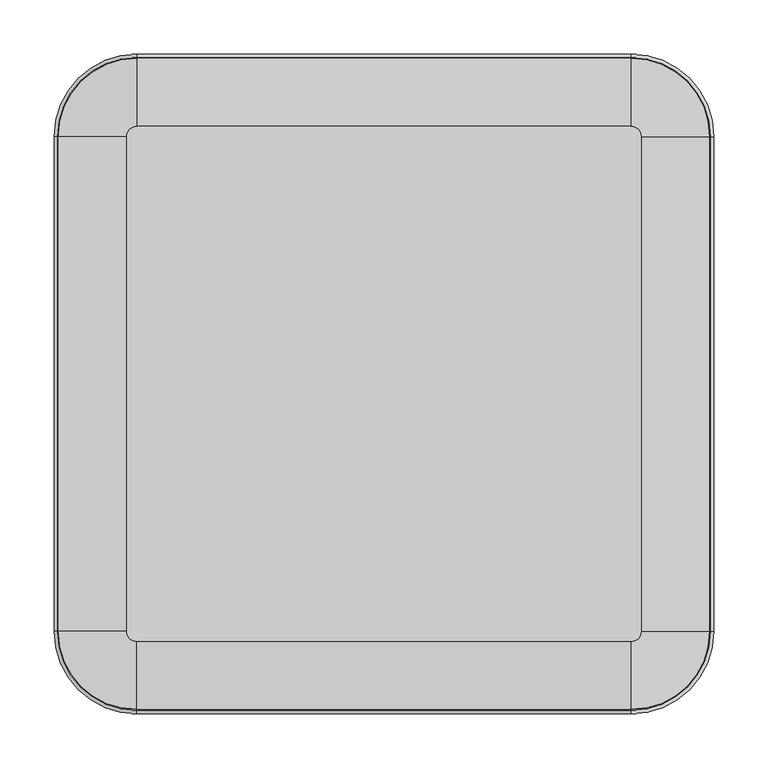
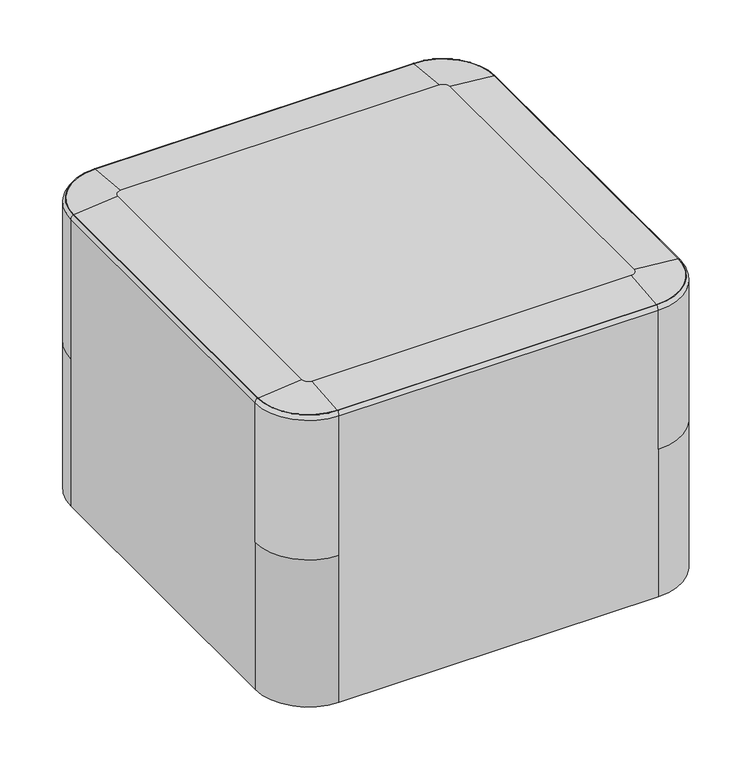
"""IFC4 building model written with IfcOpenShell, lengths in millimetres: furniture geometry, Indiana-Otty-Ottoman_Square : 840-2418SO."""

from ifc_helpers import new_model, si_unit, point, frame, origin, place, context, project, spatial, polyline, circle_curve, ellipse_curve, trimmed, source, transform, mapped, element, save
from ifc_brep_helpers import plane_surface, cylinder_surface, revolved_surface, advanced_brep


def furniture_ba106c97(model_context):
    return source(origin(), model_context, "Body", "AdvancedBrep", [
        advanced_brep(
        [(0.0, -250.825, 19.8875), (0.0, -273.325, 19.8875), (0.0, -228.325, 19.8875), (0.0, -272.8765082, 4.2458827), (0.0, -228.7734918, 4.2458827), (0.0, -268.3913665, -0.1125), (0.0, -233.2586335, -0.1125), (0.0, -261.0926178, -0.1125), (0.0, -240.5573822, -0.1125), (0.0, -257.1981417, 3.9179615), (0.0, -244.4518583, 3.9179615), (0.0, -250.825, 3.9179615)],
        [
            (0, 1),
            (1, 2, circle_curve(frame((0.0, -250.825, 19.8875), z_axis=(0.0, 0.0, 1.0), x_axis=(0.0, -1.0, 0.0)), 22.5)),
            (2, 0),
            (2, 1, circle_curve(frame((0.0, -250.825, 19.8875), z_axis=(0.0, 0.0, 1.0), x_axis=(0.0, -1.0, 0.0)), 22.5)),
            (1, 3),
            (3, 4, circle_curve(frame((0.0, -250.825, 4.2458827), z_axis=(0.0, 0.0, 1.0), x_axis=(0.0, -1.0, 0.0)), 22.0515082)),
            (4, 2),
            (4, 3, circle_curve(frame((0.0, -250.825, 4.2458827), z_axis=(0.0, 0.0, 1.0), x_axis=(0.0, -1.0, 0.0)), 22.0515082)),
            (3, 5, circle_curve(frame((0.0, -268.3913665, 4.3744851), z_axis=(1.0, 0.0, 0.0), x_axis=(0.0, 1.0, 0.0)), 4.4869851)),
            (5, 6, circle_curve(frame((0.0, -250.825, -0.1125), z_axis=(0.0, 0.0, 1.0), x_axis=(0.0, -1.0, 0.0)), 17.5663665)),
            (6, 4, circle_curve(frame((0.0, -233.2586335, 4.3744851), z_axis=(1.0, 0.0, 0.0), x_axis=(0.0, -1.0, 0.0)), 4.4869851)),
            (6, 5, circle_curve(frame((0.0, -250.825, -0.1125), z_axis=(0.0, 0.0, 1.0), x_axis=(0.0, -1.0, 0.0)), 17.5663665)),
            (5, 7),
            (7, 8, circle_curve(frame((0.0, -250.825, -0.1125), z_axis=(0.0, 0.0, 1.0), x_axis=(0.0, -1.0, 0.0)), 10.2676178)),
            (8, 6),
            (8, 7, circle_curve(frame((0.0, -250.825, -0.1125), z_axis=(0.0, 0.0, 1.0), x_axis=(0.0, -1.0, 0.0)), 10.2676178)),
            (7, 9, circle_curve(frame((0.0, -261.0926178, 3.7842702), z_axis=(1.0, 0.0, 0.0), x_axis=(0.0, 1.0, 0.0)), 3.8967702)),
            (9, 10, circle_curve(frame((0.0, -250.825, 3.9179615), z_axis=(0.0, 0.0, 1.0), x_axis=(0.0, -1.0, 0.0)), 6.3731417)),
            (10, 8, circle_curve(frame((0.0, -240.5573822, 3.7842702), z_axis=(1.0, 0.0, 0.0), x_axis=(0.0, -1.0, 0.0)), 3.8967702)),
            (10, 9, circle_curve(frame((0.0, -250.825, 3.9179615), z_axis=(0.0, 0.0, 1.0), x_axis=(0.0, -1.0, 0.0)), 6.3731417)),
            (9, 11),
            (11, 10),
        ],
        [
            plane_surface(frame((0.0, -250.825, 19.8875), z_axis=(0.0, 0.0, 1.0), x_axis=(0.0, -1.0, 0.0))),
            revolved_surface(polyline([(0.0, -272.8765082, 4.2458827), (0.0, -273.325, 19.8875)]), (0.0, -250.825, 31.0803862), (0.0, 0.0, 1.0)),
            revolved_surface(trimmed(ellipse_curve(frame((0.0, -268.3913665, 4.3744851), z_axis=(-1.0, 0.0, 0.0), x_axis=(0.0, 1.0, 0.0)), 4.4869851, 4.4869851), [point((0.0, -268.3913665, -0.1125))], [point((0.0, -272.8765082, 4.2458827))], True, "CARTESIAN"), (0.0, -250.825, 31.0803862), (0.0, 0.0, 1.0)),
            plane_surface(frame((0.0, -250.825, -0.1125), z_axis=(0.0, 0.0, -1.0), x_axis=(0.0, -1.0, 0.0))),
            revolved_surface(trimmed(ellipse_curve(frame((0.0, -261.0926178, 3.7842702), z_axis=(-1.0, 0.0, 0.0), x_axis=(0.0, 1.0, 0.0)), 3.8967702, 3.8967702), [point((0.0, -257.1981417, 3.9179615))], [point((0.0, -261.0926178, -0.1125))], True, "CARTESIAN"), (0.0, -250.825, 31.0803862), (0.0, 0.0, 1.0)),
            plane_surface(frame((0.0, -250.825, 3.9179615), z_axis=(0.0, 0.0, -1.0), x_axis=(0.0, -1.0, 0.0))),
        ],
        [
            (0, [[1, 2, 3]]),
            (0, [[-3, 4, -1]]),
            (1, [[-2, 5, 6, 7]]),
            (1, [[-4, -7, 8, -5]]),
            (2, [[-6, 9, 10, 11]]),
            (2, [[-8, -11, 12, -9]]),
            (3, [[-10, 13, 14, 15]]),
            (3, [[-12, -15, 16, -13]]),
            (4, [[-14, 17, 18, 19]]),
            (4, [[-16, -19, 20, -17]]),
            (5, [[-18, 21, 22]]),
            (5, [[-20, -22, -21]]),
        ],
    ),
        advanced_brep(
        [(0.0, 250.825, 19.8875), (0.0, 228.325, 19.8875), (0.0, 273.325, 19.8875), (0.0, 228.7734918, 4.2458827), (0.0, 272.8765082, 4.2458827), (0.0, 233.2586335, -0.1125), (0.0, 268.3913665, -0.1125), (0.0, 240.5573822, -0.1125), (0.0, 261.0926178, -0.1125), (0.0, 244.4518583, 3.9179615), (0.0, 257.1981417, 3.9179615), (0.0, 250.825, 3.9179615)],
        [
            (0, 1),
            (1, 2, circle_curve(frame((0.0, 250.825, 19.8875), z_axis=(0.0, 0.0, 1.0), x_axis=(0.0, -1.0, 0.0)), 22.5)),
            (2, 0),
            (2, 1, circle_curve(frame((0.0, 250.825, 19.8875), z_axis=(0.0, 0.0, 1.0), x_axis=(0.0, -1.0, 0.0)), 22.5)),
            (1, 3),
            (3, 4, circle_curve(frame((0.0, 250.825, 4.2458827), z_axis=(0.0, 0.0, 1.0), x_axis=(0.0, -1.0, 0.0)), 22.0515082)),
            (4, 2),
            (4, 3, circle_curve(frame((0.0, 250.825, 4.2458827), z_axis=(0.0, 0.0, 1.0), x_axis=(0.0, -1.0, 0.0)), 22.0515082)),
            (3, 5, circle_curve(frame((0.0, 233.2586335, 4.3744851), z_axis=(1.0, 0.0, 0.0), x_axis=(0.0, 1.0, 0.0)), 4.4869851)),
            (5, 6, circle_curve(frame((0.0, 250.825, -0.1125), z_axis=(0.0, 0.0, 1.0), x_axis=(0.0, -1.0, 0.0)), 17.5663665)),
            (6, 4, circle_curve(frame((0.0, 268.3913665, 4.3744851), z_axis=(1.0, 0.0, 0.0), x_axis=(0.0, -1.0, 0.0)), 4.4869851)),
            (6, 5, circle_curve(frame((0.0, 250.825, -0.1125), z_axis=(0.0, 0.0, 1.0), x_axis=(0.0, -1.0, 0.0)), 17.5663665)),
            (5, 7),
            (7, 8, circle_curve(frame((0.0, 250.825, -0.1125), z_axis=(0.0, 0.0, 1.0), x_axis=(0.0, -1.0, 0.0)), 10.2676178)),
            (8, 6),
            (8, 7, circle_curve(frame((0.0, 250.825, -0.1125), z_axis=(0.0, 0.0, 1.0), x_axis=(0.0, -1.0, 0.0)), 10.2676178)),
            (7, 9, circle_curve(frame((0.0, 240.5573822, 3.7842702), z_axis=(1.0, 0.0, 0.0), x_axis=(0.0, 1.0, 0.0)), 3.8967702)),
            (9, 10, circle_curve(frame((0.0, 250.825, 3.9179615), z_axis=(0.0, 0.0, 1.0), x_axis=(0.0, -1.0, 0.0)), 6.3731417)),
            (10, 8, circle_curve(frame((0.0, 261.0926178, 3.7842702), z_axis=(1.0, 0.0, 0.0), x_axis=(0.0, -1.0, 0.0)), 3.8967702)),
            (10, 9, circle_curve(frame((0.0, 250.825, 3.9179615), z_axis=(0.0, 0.0, 1.0), x_axis=(0.0, -1.0, 0.0)), 6.3731417)),
            (9, 11),
            (11, 10),
        ],
        [
            plane_surface(frame((0.0, 250.825, 19.8875), z_axis=(0.0, 0.0, 1.0), x_axis=(0.0, -1.0, 0.0))),
            revolved_surface(polyline([(0.0, 228.7734918, 4.2458827), (0.0, 228.325, 19.8875)]), (0.0, 250.825, 31.0803862), (0.0, 0.0, 1.0)),
            revolved_surface(trimmed(ellipse_curve(frame((0.0, 233.2586335, 4.3744851), z_axis=(-1.0, 0.0, 0.0), x_axis=(0.0, 1.0, 0.0)), 4.4869851, 4.4869851), [point((0.0, 233.2586335, -0.1125))], [point((0.0, 228.7734918, 4.2458827))], True, "CARTESIAN"), (0.0, 250.825, 31.0803862), (0.0, 0.0, 1.0)),
            plane_surface(frame((0.0, 250.825, -0.1125), z_axis=(0.0, 0.0, -1.0), x_axis=(0.0, -1.0, 0.0))),
            revolved_surface(trimmed(ellipse_curve(frame((0.0, 240.5573822, 3.7842702), z_axis=(-1.0, 0.0, 0.0), x_axis=(0.0, 1.0, 0.0)), 3.8967702, 3.8967702), [point((0.0, 244.4518583, 3.9179615))], [point((0.0, 240.5573822, -0.1125))], True, "CARTESIAN"), (0.0, 250.825, 31.0803862), (0.0, 0.0, 1.0)),
            plane_surface(frame((0.0, 250.825, 3.9179615), z_axis=(0.0, 0.0, -1.0), x_axis=(0.0, -1.0, 0.0))),
        ],
        [
            (0, [[1, 2, 3]]),
            (0, [[-3, 4, -1]]),
            (1, [[-2, 5, 6, 7]]),
            (1, [[-4, -7, 8, -5]]),
            (2, [[-6, 9, 10, 11]]),
            (2, [[-8, -11, 12, -9]]),
            (3, [[-10, 13, 14, 15]]),
            (3, [[-12, -15, 16, -13]]),
            (4, [[-14, 17, 18, 19]]),
            (4, [[-16, -19, 20, -17]]),
            (5, [[-18, 21, 22]]),
            (5, [[-20, -22, -21]]),
        ],
    ),
        advanced_brep(
        [(250.825, -250.825, 19.8875), (250.825, -273.325, 19.8875), (250.825, -228.325, 19.8875), (250.825, -272.8765082, 4.2458827), (250.825, -228.7734918, 4.2458827), (250.825, -268.3913665, -0.1125), (250.825, -233.2586335, -0.1125), (250.825, -261.0926178, -0.1125), (250.825, -240.5573822, -0.1125), (250.825, -257.1981417, 3.9179615), (250.825, -244.4518583, 3.9179615), (250.825, -250.825, 3.9179615)],
        [
            (0, 1),
            (1, 2, circle_curve(frame((250.825, -250.825, 19.8875), z_axis=(0.0, 0.0, 1.0), x_axis=(0.0, -1.0, 0.0)), 22.5)),
            (2, 0),
            (2, 1, circle_curve(frame((250.825, -250.825, 19.8875), z_axis=(0.0, 0.0, 1.0), x_axis=(0.0, -1.0, 0.0)), 22.5)),
            (1, 3),
            (3, 4, circle_curve(frame((250.825, -250.825, 4.2458827), z_axis=(0.0, 0.0, 1.0), x_axis=(0.0, -1.0, 0.0)), 22.0515082)),
            (4, 2),
            (4, 3, circle_curve(frame((250.825, -250.825, 4.2458827), z_axis=(0.0, 0.0, 1.0), x_axis=(0.0, -1.0, 0.0)), 22.0515082)),
            (3, 5, circle_curve(frame((250.825, -268.3913665, 4.3744851), z_axis=(1.0, 0.0, 0.0), x_axis=(0.0, 1.0, 0.0)), 4.4869851)),
            (5, 6, circle_curve(frame((250.825, -250.825, -0.1125), z_axis=(0.0, 0.0, 1.0), x_axis=(0.0, -1.0, 0.0)), 17.5663665)),
            (6, 4, circle_curve(frame((250.825, -233.2586335, 4.3744851), z_axis=(1.0, 0.0, 0.0), x_axis=(0.0, -1.0, 0.0)), 4.4869851)),
            (6, 5, circle_curve(frame((250.825, -250.825, -0.1125), z_axis=(0.0, 0.0, 1.0), x_axis=(0.0, -1.0, 0.0)), 17.5663665)),
            (5, 7),
            (7, 8, circle_curve(frame((250.825, -250.825, -0.1125), z_axis=(0.0, 0.0, 1.0), x_axis=(0.0, -1.0, 0.0)), 10.2676178)),
            (8, 6),
            (8, 7, circle_curve(frame((250.825, -250.825, -0.1125), z_axis=(0.0, 0.0, 1.0), x_axis=(0.0, -1.0, 0.0)), 10.2676178)),
            (7, 9, circle_curve(frame((250.825, -261.0926178, 3.7842702), z_axis=(1.0, 0.0, 0.0), x_axis=(0.0, 1.0, 0.0)), 3.8967702)),
            (9, 10, circle_curve(frame((250.825, -250.825, 3.9179615), z_axis=(0.0, 0.0, 1.0), x_axis=(0.0, -1.0, 0.0)), 6.3731417)),
            (10, 8, circle_curve(frame((250.825, -240.5573822, 3.7842702), z_axis=(1.0, 0.0, 0.0), x_axis=(0.0, -1.0, 0.0)), 3.8967702)),
            (10, 9, circle_curve(frame((250.825, -250.825, 3.9179615), z_axis=(0.0, 0.0, 1.0), x_axis=(0.0, -1.0, 0.0)), 6.3731417)),
            (9, 11),
            (11, 10),
        ],
        [
            plane_surface(frame((250.825, -250.825, 19.8875), z_axis=(0.0, 0.0, 1.0), x_axis=(0.0, -1.0, 0.0))),
            revolved_surface(polyline([(250.825, -272.8765082, 4.2458827), (250.825, -273.325, 19.8875)]), (250.825, -250.825, 31.0803862), (0.0, 0.0, 1.0)),
            revolved_surface(trimmed(ellipse_curve(frame((250.825, -268.3913665, 4.3744851), z_axis=(-1.0, 0.0, 0.0), x_axis=(0.0, 1.0, 0.0)), 4.4869851, 4.4869851), [point((250.825, -268.3913665, -0.1125))], [point((250.825, -272.8765082, 4.2458827))], True, "CARTESIAN"), (250.825, -250.825, 31.0803862), (0.0, 0.0, 1.0)),
            plane_surface(frame((250.825, -250.825, -0.1125), z_axis=(0.0, 0.0, -1.0), x_axis=(0.0, -1.0, 0.0))),
            revolved_surface(trimmed(ellipse_curve(frame((250.825, -261.0926178, 3.7842702), z_axis=(-1.0, 0.0, 0.0), x_axis=(0.0, 1.0, 0.0)), 3.8967702, 3.8967702), [point((250.825, -257.1981417, 3.9179615))], [point((250.825, -261.0926178, -0.1125))], True, "CARTESIAN"), (250.825, -250.825, 31.0803862), (0.0, 0.0, 1.0)),
            plane_surface(frame((250.825, -250.825, 3.9179615), z_axis=(0.0, 0.0, -1.0), x_axis=(0.0, -1.0, 0.0))),
        ],
        [
            (0, [[1, 2, 3]]),
            (0, [[-3, 4, -1]]),
            (1, [[-2, 5, 6, 7]]),
            (1, [[-4, -7, 8, -5]]),
            (2, [[-6, 9, 10, 11]]),
            (2, [[-8, -11, 12, -9]]),
            (3, [[-10, 13, 14, 15]]),
            (3, [[-12, -15, 16, -13]]),
            (4, [[-14, 17, 18, 19]]),
            (4, [[-16, -19, 20, -17]]),
            (5, [[-18, 21, 22]]),
            (5, [[-20, -22, -21]]),
        ],
    ),
        advanced_brep(
        [(250.825, 250.825, 19.8875), (250.825, 228.325, 19.8875), (250.825, 273.325, 19.8875), (250.825, 228.7734918, 4.2458827), (250.825, 272.8765082, 4.2458827), (250.825, 233.2586335, -0.1125), (250.825, 268.3913665, -0.1125), (250.825, 240.5573822, -0.1125), (250.825, 261.0926178, -0.1125), (250.825, 244.4518583, 3.9179615), (250.825, 257.1981417, 3.9179615), (250.825, 250.825, 3.9179615)],
        [
            (0, 1),
            (1, 2, circle_curve(frame((250.825, 250.825, 19.8875), z_axis=(0.0, 0.0, 1.0), x_axis=(0.0, -1.0, 0.0)), 22.5)),
            (2, 0),
            (2, 1, circle_curve(frame((250.825, 250.825, 19.8875), z_axis=(0.0, 0.0, 1.0), x_axis=(0.0, -1.0, 0.0)), 22.5)),
            (1, 3),
            (3, 4, circle_curve(frame((250.825, 250.825, 4.2458827), z_axis=(0.0, 0.0, 1.0), x_axis=(0.0, -1.0, 0.0)), 22.0515082)),
            (4, 2),
            (4, 3, circle_curve(frame((250.825, 250.825, 4.2458827), z_axis=(0.0, 0.0, 1.0), x_axis=(0.0, -1.0, 0.0)), 22.0515082)),
            (3, 5, circle_curve(frame((250.825, 233.2586335, 4.3744851), z_axis=(1.0, 0.0, 0.0), x_axis=(0.0, 1.0, 0.0)), 4.4869851)),
            (5, 6, circle_curve(frame((250.825, 250.825, -0.1125), z_axis=(0.0, 0.0, 1.0), x_axis=(0.0, -1.0, 0.0)), 17.5663665)),
            (6, 4, circle_curve(frame((250.825, 268.3913665, 4.3744851), z_axis=(1.0, 0.0, 0.0), x_axis=(0.0, -1.0, 0.0)), 4.4869851)),
            (6, 5, circle_curve(frame((250.825, 250.825, -0.1125), z_axis=(0.0, 0.0, 1.0), x_axis=(0.0, -1.0, 0.0)), 17.5663665)),
            (5, 7),
            (7, 8, circle_curve(frame((250.825, 250.825, -0.1125), z_axis=(0.0, 0.0, 1.0), x_axis=(0.0, -1.0, 0.0)), 10.2676178)),
            (8, 6),
            (8, 7, circle_curve(frame((250.825, 250.825, -0.1125), z_axis=(0.0, 0.0, 1.0), x_axis=(0.0, -1.0, 0.0)), 10.2676178)),
            (7, 9, circle_curve(frame((250.825, 240.5573822, 3.7842702), z_axis=(1.0, 0.0, 0.0), x_axis=(0.0, 1.0, 0.0)), 3.8967702)),
            (9, 10, circle_curve(frame((250.825, 250.825, 3.9179615), z_axis=(0.0, 0.0, 1.0), x_axis=(0.0, -1.0, 0.0)), 6.3731417)),
            (10, 8, circle_curve(frame((250.825, 261.0926178, 3.7842702), z_axis=(1.0, 0.0, 0.0), x_axis=(0.0, -1.0, 0.0)), 3.8967702)),
            (10, 9, circle_curve(frame((250.825, 250.825, 3.9179615), z_axis=(0.0, 0.0, 1.0), x_axis=(0.0, -1.0, 0.0)), 6.3731417)),
            (9, 11),
            (11, 10),
        ],
        [
            plane_surface(frame((250.825, 250.825, 19.8875), z_axis=(0.0, 0.0, 1.0), x_axis=(0.0, -1.0, 0.0))),
            revolved_surface(polyline([(250.825, 228.7734918, 4.2458827), (250.825, 228.325, 19.8875)]), (250.825, 250.825, 31.0803862), (0.0, 0.0, 1.0)),
            revolved_surface(trimmed(ellipse_curve(frame((250.825, 233.2586335, 4.3744851), z_axis=(-1.0, 0.0, 0.0), x_axis=(0.0, 1.0, 0.0)), 4.4869851, 4.4869851), [point((250.825, 233.2586335, -0.1125))], [point((250.825, 228.7734918, 4.2458827))], True, "CARTESIAN"), (250.825, 250.825, 31.0803862), (0.0, 0.0, 1.0)),
            plane_surface(frame((250.825, 250.825, -0.1125), z_axis=(0.0, 0.0, -1.0), x_axis=(0.0, -1.0, 0.0))),
            revolved_surface(trimmed(ellipse_curve(frame((250.825, 240.5573822, 3.7842702), z_axis=(-1.0, 0.0, 0.0), x_axis=(0.0, 1.0, 0.0)), 3.8967702, 3.8967702), [point((250.825, 244.4518583, 3.9179615))], [point((250.825, 240.5573822, -0.1125))], True, "CARTESIAN"), (250.825, 250.825, 31.0803862), (0.0, 0.0, 1.0)),
            plane_surface(frame((250.825, 250.825, 3.9179615), z_axis=(0.0, 0.0, -1.0), x_axis=(0.0, -1.0, 0.0))),
        ],
        [
            (0, [[1, 2, 3]]),
            (0, [[-3, 4, -1]]),
            (1, [[-2, 5, 6, 7]]),
            (1, [[-4, -7, 8, -5]]),
            (2, [[-6, 9, 10, 11]]),
            (2, [[-8, -11, 12, -9]]),
            (3, [[-10, 13, 14, 15]]),
            (3, [[-12, -15, 16, -13]]),
            (4, [[-14, 17, 18, 19]]),
            (4, [[-16, -19, 20, -17]]),
            (5, [[-18, 21, 22]]),
            (5, [[-20, -22, -21]]),
        ],
    ),
        advanced_brep(
        [(-250.825, -250.825, 19.8875), (-250.825, -273.325, 19.8875), (-250.825, -228.325, 19.8875), (-250.825, -272.8765082, 4.2458827), (-250.825, -228.7734918, 4.2458827), (-250.825, -268.3913665, -0.1125), (-250.825, -233.2586335, -0.1125), (-250.825, -261.0926178, -0.1125), (-250.825, -240.5573822, -0.1125), (-250.825, -257.1981417, 3.9179615), (-250.825, -244.4518583, 3.9179615), (-250.825, -250.825, 3.9179615)],
        [
            (0, 1),
            (1, 2, circle_curve(frame((-250.825, -250.825, 19.8875), z_axis=(0.0, 0.0, 1.0), x_axis=(0.0, -1.0, 0.0)), 22.5)),
            (2, 0),
            (2, 1, circle_curve(frame((-250.825, -250.825, 19.8875), z_axis=(0.0, 0.0, 1.0), x_axis=(0.0, -1.0, 0.0)), 22.5)),
            (1, 3),
            (3, 4, circle_curve(frame((-250.825, -250.825, 4.2458827), z_axis=(0.0, 0.0, 1.0), x_axis=(0.0, -1.0, 0.0)), 22.0515082)),
            (4, 2),
            (4, 3, circle_curve(frame((-250.825, -250.825, 4.2458827), z_axis=(0.0, 0.0, 1.0), x_axis=(0.0, -1.0, 0.0)), 22.0515082)),
            (3, 5, circle_curve(frame((-250.825, -268.3913665, 4.3744851), z_axis=(1.0, 0.0, 0.0), x_axis=(0.0, 1.0, 0.0)), 4.4869851)),
            (5, 6, circle_curve(frame((-250.825, -250.825, -0.1125), z_axis=(0.0, 0.0, 1.0), x_axis=(0.0, -1.0, 0.0)), 17.5663665)),
            (6, 4, circle_curve(frame((-250.825, -233.2586335, 4.3744851), z_axis=(1.0, 0.0, 0.0), x_axis=(0.0, -1.0, 0.0)), 4.4869851)),
            (6, 5, circle_curve(frame((-250.825, -250.825, -0.1125), z_axis=(0.0, 0.0, 1.0), x_axis=(0.0, -1.0, 0.0)), 17.5663665)),
            (5, 7),
            (7, 8, circle_curve(frame((-250.825, -250.825, -0.1125), z_axis=(0.0, 0.0, 1.0), x_axis=(0.0, -1.0, 0.0)), 10.2676178)),
            (8, 6),
            (8, 7, circle_curve(frame((-250.825, -250.825, -0.1125), z_axis=(0.0, 0.0, 1.0), x_axis=(0.0, -1.0, 0.0)), 10.2676178)),
            (7, 9, circle_curve(frame((-250.825, -261.0926178, 3.7842702), z_axis=(1.0, 0.0, 0.0), x_axis=(0.0, 1.0, 0.0)), 3.8967702)),
            (9, 10, circle_curve(frame((-250.825, -250.825, 3.9179615), z_axis=(0.0, 0.0, 1.0), x_axis=(0.0, -1.0, 0.0)), 6.3731417)),
            (10, 8, circle_curve(frame((-250.825, -240.5573822, 3.7842702), z_axis=(1.0, 0.0, 0.0), x_axis=(0.0, -1.0, 0.0)), 3.8967702)),
            (10, 9, circle_curve(frame((-250.825, -250.825, 3.9179615), z_axis=(0.0, 0.0, 1.0), x_axis=(0.0, -1.0, 0.0)), 6.3731417)),
            (9, 11),
            (11, 10),
        ],
        [
            plane_surface(frame((-250.825, -250.825, 19.8875), z_axis=(0.0, 0.0, 1.0), x_axis=(0.0, -1.0, 0.0))),
            revolved_surface(polyline([(-250.825, -272.8765082, 4.2458827), (-250.825, -273.325, 19.8875)]), (-250.825, -250.825, 31.0803862), (0.0, 0.0, 1.0)),
            revolved_surface(trimmed(ellipse_curve(frame((-250.825, -268.3913665, 4.3744851), z_axis=(-1.0, 0.0, 0.0), x_axis=(0.0, 1.0, 0.0)), 4.4869851, 4.4869851), [point((-250.825, -268.3913665, -0.1125))], [point((-250.825, -272.8765082, 4.2458827))], True, "CARTESIAN"), (-250.825, -250.825, 31.0803862), (0.0, 0.0, 1.0)),
            plane_surface(frame((-250.825, -250.825, -0.1125), z_axis=(0.0, 0.0, -1.0), x_axis=(0.0, -1.0, 0.0))),
            revolved_surface(trimmed(ellipse_curve(frame((-250.825, -261.0926178, 3.7842702), z_axis=(-1.0, 0.0, 0.0), x_axis=(0.0, 1.0, 0.0)), 3.8967702, 3.8967702), [point((-250.825, -257.1981417, 3.9179615))], [point((-250.825, -261.0926178, -0.1125))], True, "CARTESIAN"), (-250.825, -250.825, 31.0803862), (0.0, 0.0, 1.0)),
            plane_surface(frame((-250.825, -250.825, 3.9179615), z_axis=(0.0, 0.0, -1.0), x_axis=(0.0, -1.0, 0.0))),
        ],
        [
            (0, [[1, 2, 3]]),
            (0, [[-3, 4, -1]]),
            (1, [[-2, 5, 6, 7]]),
            (1, [[-4, -7, 8, -5]]),
            (2, [[-6, 9, 10, 11]]),
            (2, [[-8, -11, 12, -9]]),
            (3, [[-10, 13, 14, 15]]),
            (3, [[-12, -15, 16, -13]]),
            (4, [[-14, 17, 18, 19]]),
            (4, [[-16, -19, 20, -17]]),
            (5, [[-18, 21, 22]]),
            (5, [[-20, -22, -21]]),
        ],
    ),
        advanced_brep(
        [(-250.825, 250.825, 19.8875), (-250.825, 228.325, 19.8875), (-250.825, 273.325, 19.8875), (-250.825, 228.7734918, 4.2458827), (-250.825, 272.8765082, 4.2458827), (-250.825, 233.2586335, -0.1125), (-250.825, 268.3913665, -0.1125), (-250.825, 240.5573822, -0.1125), (-250.825, 261.0926178, -0.1125), (-250.825, 244.4518583, 3.9179615), (-250.825, 257.1981417, 3.9179615), (-250.825, 250.825, 3.9179615)],
        [
            (0, 1),
            (1, 2, circle_curve(frame((-250.825, 250.825, 19.8875), z_axis=(0.0, 0.0, 1.0), x_axis=(0.0, -1.0, 0.0)), 22.5)),
            (2, 0),
            (2, 1, circle_curve(frame((-250.825, 250.825, 19.8875), z_axis=(0.0, 0.0, 1.0), x_axis=(0.0, -1.0, 0.0)), 22.5)),
            (1, 3),
            (3, 4, circle_curve(frame((-250.825, 250.825, 4.2458827), z_axis=(0.0, 0.0, 1.0), x_axis=(0.0, -1.0, 0.0)), 22.0515082)),
            (4, 2),
            (4, 3, circle_curve(frame((-250.825, 250.825, 4.2458827), z_axis=(0.0, 0.0, 1.0), x_axis=(0.0, -1.0, 0.0)), 22.0515082)),
            (3, 5, circle_curve(frame((-250.825, 233.2586335, 4.3744851), z_axis=(1.0, 0.0, 0.0), x_axis=(0.0, 1.0, 0.0)), 4.4869851)),
            (5, 6, circle_curve(frame((-250.825, 250.825, -0.1125), z_axis=(0.0, 0.0, 1.0), x_axis=(0.0, -1.0, 0.0)), 17.5663665)),
            (6, 4, circle_curve(frame((-250.825, 268.3913665, 4.3744851), z_axis=(1.0, 0.0, 0.0), x_axis=(0.0, -1.0, 0.0)), 4.4869851)),
            (6, 5, circle_curve(frame((-250.825, 250.825, -0.1125), z_axis=(0.0, 0.0, 1.0), x_axis=(0.0, -1.0, 0.0)), 17.5663665)),
            (5, 7),
            (7, 8, circle_curve(frame((-250.825, 250.825, -0.1125), z_axis=(0.0, 0.0, 1.0), x_axis=(0.0, -1.0, 0.0)), 10.2676178)),
            (8, 6),
            (8, 7, circle_curve(frame((-250.825, 250.825, -0.1125), z_axis=(0.0, 0.0, 1.0), x_axis=(0.0, -1.0, 0.0)), 10.2676178)),
            (7, 9, circle_curve(frame((-250.825, 240.5573822, 3.7842702), z_axis=(1.0, 0.0, 0.0), x_axis=(0.0, 1.0, 0.0)), 3.8967702)),
            (9, 10, circle_curve(frame((-250.825, 250.825, 3.9179615), z_axis=(0.0, 0.0, 1.0), x_axis=(0.0, -1.0, 0.0)), 6.3731417)),
            (10, 8, circle_curve(frame((-250.825, 261.0926178, 3.7842702), z_axis=(1.0, 0.0, 0.0), x_axis=(0.0, -1.0, 0.0)), 3.8967702)),
            (10, 9, circle_curve(frame((-250.825, 250.825, 3.9179615), z_axis=(0.0, 0.0, 1.0), x_axis=(0.0, -1.0, 0.0)), 6.3731417)),
            (9, 11),
            (11, 10),
        ],
        [
            plane_surface(frame((-250.825, 250.825, 19.8875), z_axis=(0.0, 0.0, 1.0), x_axis=(0.0, -1.0, 0.0))),
            revolved_surface(polyline([(-250.825, 228.7734918, 4.2458827), (-250.825, 228.325, 19.8875)]), (-250.825, 250.825, 31.0803862), (0.0, 0.0, 1.0)),
            revolved_surface(trimmed(ellipse_curve(frame((-250.825, 233.2586335, 4.3744851), z_axis=(-1.0, 0.0, 0.0), x_axis=(0.0, 1.0, 0.0)), 4.4869851, 4.4869851), [point((-250.825, 233.2586335, -0.1125))], [point((-250.825, 228.7734918, 4.2458827))], True, "CARTESIAN"), (-250.825, 250.825, 31.0803862), (0.0, 0.0, 1.0)),
            plane_surface(frame((-250.825, 250.825, -0.1125), z_axis=(0.0, 0.0, -1.0), x_axis=(0.0, -1.0, 0.0))),
            revolved_surface(trimmed(ellipse_curve(frame((-250.825, 240.5573822, 3.7842702), z_axis=(-1.0, 0.0, 0.0), x_axis=(0.0, 1.0, 0.0)), 3.8967702, 3.8967702), [point((-250.825, 244.4518583, 3.9179615))], [point((-250.825, 240.5573822, -0.1125))], True, "CARTESIAN"), (-250.825, 250.825, 31.0803862), (0.0, 0.0, 1.0)),
            plane_surface(frame((-250.825, 250.825, 3.9179615), z_axis=(0.0, 0.0, -1.0), x_axis=(0.0, -1.0, 0.0))),
        ],
        [
            (0, [[1, 2, 3]]),
            (0, [[-3, 4, -1]]),
            (1, [[-2, 5, 6, 7]]),
            (1, [[-4, -7, 8, -5]]),
            (2, [[-6, 9, 10, 11]]),
            (2, [[-8, -11, 12, -9]]),
            (3, [[-10, 13, 14, 15]]),
            (3, [[-12, -15, 16, -13]]),
            (4, [[-14, 17, 18, 19]]),
            (4, [[-16, -19, 20, -17]]),
            (5, [[-18, 21, 22]]),
            (5, [[-20, -22, -21]]),
        ],
    ),
        advanced_brep(
        [(300.8, 228.6, 451.1999966), (228.6, 300.8, 451.1999966), (228.6, 238.125, 457.2), (238.125, 228.6, 457.2), (301.5317905, 228.6, 451.4073863), (228.6, 301.5317905, 451.4073863), (304.8, 228.6, 445.2), (228.6, 304.8, 445.2), (304.8, 228.6, 234.35), (228.6, 304.8, 234.35), (238.125, -228.6, 457.2), (300.8, -228.6, 451.1999966), (301.5317905, -228.6, 451.4073863), (304.8, -228.6, 445.2), (304.8, -228.6, 234.35), (304.8, -228.6, 11.5), (304.8, 228.6, 11.5), (228.6, -238.125, 457.2), (228.6, -300.8, 451.1999966), (228.6, -301.5317905, 451.4073863), (228.6, -304.8, 445.2), (228.6, -304.8, 234.35), (-228.6, -238.125, 457.2), (-228.6, -300.8, 451.1999966), (-228.6, -301.5317905, 451.4073863), (-228.6, -304.8, 445.2), (-228.6, -304.8, 234.35), (-228.6, -304.8, 11.5), (228.6, -304.8, 11.5), (-238.125, -228.6, 457.2), (-300.8, -228.6, 451.1999966), (-301.5317905, -228.6, 451.4073863), (-304.8, -228.6, 445.2), (-304.8, -228.6, 234.35), (-238.125, 228.6, 457.2), (-300.8, 228.6, 451.1999966), (-301.5317905, 228.6, 451.4073863), (-304.8, 228.6, 445.2), (-304.8, 228.6, 234.35), (-304.8, 228.6, 11.5), (-304.8, -228.6, 11.5), (-228.6, 238.125, 457.2), (-228.6, 300.8, 451.1999966), (-228.6, 301.5317905, 451.4073863), (-228.6, 304.8, 445.2), (-228.6, 304.8, 234.35), (228.6, 304.8, 11.5), (-228.6, 304.8, 11.5), (-273.84375, -250.825, 11.5), (-227.80625, -250.825, 11.5), (-273.84375, 250.825, 11.5), (-227.80625, 250.825, 11.5), (227.80625, 250.825, 11.5), (273.84375, 250.825, 11.5), (227.80625, -250.825, 11.5), (273.84375, -250.825, 11.5), (-23.01875, 250.825, 11.5), (23.01875, 250.825, 11.5), (-23.01875, -250.825, 11.5), (23.01875, -250.825, 11.5), (-227.80625, -250.825, 19.834375), (-273.84375, -250.825, 19.834375), (-227.80625, 250.825, 19.834375), (-273.84375, 250.825, 19.834375), (227.80625, 250.825, 19.834375), (273.84375, 250.825, 19.834375), (227.80625, -250.825, 19.834375), (273.84375, -250.825, 19.834375), (-23.01875, 250.825, 19.834375), (23.01875, 250.825, 19.834375), (-23.01875, -250.825, 19.834375), (23.01875, -250.825, 19.834375)],
        [
            (0, 1, circle_curve(frame((228.6, 228.6, 451.1999966), z_axis=(0.0, 0.0, 1.0), x_axis=(0.0, 1.0, 0.0)), 72.2)),
            (1, 2, circle_curve(frame((228.6, 238.125, 126.8538794), z_axis=(1.0, 0.0, 0.0), x_axis=(0.0, 1.0, 0.0)), 330.3461206)),
            (2, 3, circle_curve(frame((228.6, 228.6, 457.2), z_axis=(0.0, 0.0, -1.0), x_axis=(0.0, 1.0, 0.0)), 9.525)),
            (3, 0, circle_curve(frame((238.125, 228.6, 126.8538794), z_axis=(0.0, 1.0, 0.0), x_axis=(1.0, 0.0, 0.0)), 330.3461206)),
            (0, 4, circle_curve(frame((301.2520185, 228.6, 450.999799), z_axis=(0.0, 1.0, 0.0), x_axis=(1.0, 0.0, 0.0)), 0.4943681)),
            (4, 5, circle_curve(frame((228.6, 228.6, 451.4073863), z_axis=(0.0, 0.0, 1.0), x_axis=(0.0, 1.0, 0.0)), 72.9317905)),
            (5, 1, circle_curve(frame((228.6, 301.2520185, 450.999799), z_axis=(1.0, 0.0, 0.0), x_axis=(0.0, 1.0, 0.0)), 0.4943681)),
            (4, 6, circle_curve(frame((297.2709786, 228.6, 445.2), z_axis=(0.0, 1.0, 0.0), x_axis=(1.0, 0.0, 0.0)), 7.5290214)),
            (6, 7, circle_curve(frame((228.6, 228.6, 445.2), z_axis=(0.0, 0.0, 1.0), x_axis=(0.0, 1.0, 0.0)), 76.2)),
            (7, 5, circle_curve(frame((228.6, 297.2709786, 445.2), z_axis=(1.0, 0.0, 0.0), x_axis=(0.0, 1.0, 0.0)), 7.5290214)),
            (6, 8),
            (8, 9, circle_curve(frame((228.6, 228.6, 234.35), z_axis=(0.0, 0.0, 1.0), x_axis=(0.0, 1.0, 0.0)), 76.2)),
            (9, 7),
            (3, 10),
            (10, 11, circle_curve(frame((238.125, -228.6, 126.8538794), z_axis=(0.0, 1.0, 0.0), x_axis=(1.0, 0.0, 0.0)), 330.3461206)),
            (11, 0),
            (11, 12, circle_curve(frame((301.2520185, -228.6, 450.999799), z_axis=(0.0, 1.0, 0.0), x_axis=(1.0, 0.0, 0.0)), 0.4943681)),
            (12, 4),
            (12, 13, circle_curve(frame((297.2709786, -228.6, 445.2), z_axis=(0.0, 1.0, 0.0), x_axis=(1.0, 0.0, 0.0)), 7.5290214)),
            (13, 6),
            (13, 14),
            (14, 15),
            (15, 16),
            (16, 8),
            (10, 17, circle_curve(frame((228.6, -228.6, 457.2), z_axis=(0.0, 0.0, -1.0), x_axis=(1.0, 0.0, 0.0)), 9.525)),
            (17, 18, circle_curve(frame((228.6, -238.125, 126.8538794), z_axis=(1.0, 0.0, 0.0), x_axis=(0.0, -1.0, 0.0)), 330.3461206)),
            (18, 11, circle_curve(frame((228.6, -228.6, 451.1999966), z_axis=(0.0, 0.0, 1.0), x_axis=(1.0, 0.0, 0.0)), 72.2)),
            (18, 19, circle_curve(frame((228.6, -301.2520185, 450.999799), z_axis=(1.0, 0.0, 0.0), x_axis=(0.0, -1.0, 0.0)), 0.4943681)),
            (19, 12, circle_curve(frame((228.6, -228.6, 451.4073863), z_axis=(0.0, 0.0, 1.0), x_axis=(1.0, 0.0, 0.0)), 72.9317905)),
            (19, 20, circle_curve(frame((228.6, -297.2709786, 445.2), z_axis=(1.0, 0.0, 0.0), x_axis=(0.0, -1.0, 0.0)), 7.5290214)),
            (20, 13, circle_curve(frame((228.6, -228.6, 445.2), z_axis=(0.0, 0.0, 1.0), x_axis=(1.0, 0.0, 0.0)), 76.2)),
            (20, 21),
            (21, 14, circle_curve(frame((228.6, -228.6, 234.35), z_axis=(0.0, 0.0, 1.0), x_axis=(1.0, 0.0, 0.0)), 76.2)),
            (17, 22),
            (22, 23, circle_curve(frame((-228.6, -238.125, 126.8538794), z_axis=(1.0, 0.0, 0.0), x_axis=(0.0, -1.0, 0.0)), 330.3461206)),
            (23, 18),
            (23, 24, circle_curve(frame((-228.6, -301.2520185, 450.999799), z_axis=(1.0, 0.0, 0.0), x_axis=(0.0, -1.0, 0.0)), 0.4943681)),
            (24, 19),
            (24, 25, circle_curve(frame((-228.6, -297.2709786, 445.2), z_axis=(1.0, 0.0, 0.0), x_axis=(0.0, -1.0, 0.0)), 7.5290214)),
            (25, 20),
            (25, 26),
            (26, 27),
            (27, 28),
            (28, 21),
            (22, 29, circle_curve(frame((-228.6, -228.6, 457.2), z_axis=(0.0, 0.0, -1.0), x_axis=(0.0, -1.0, 0.0)), 9.525)),
            (29, 30, circle_curve(frame((-238.125, -228.6, 126.8538794), z_axis=(0.0, -1.0, 0.0), x_axis=(-1.0, 0.0, 0.0)), 330.3461206)),
            (30, 23, circle_curve(frame((-228.6, -228.6, 451.1999966), z_axis=(0.0, 0.0, 1.0), x_axis=(0.0, -1.0, 0.0)), 72.2)),
            (30, 31, circle_curve(frame((-301.2520185, -228.6, 450.999799), z_axis=(0.0, -1.0, 0.0), x_axis=(-1.0, 0.0, 0.0)), 0.4943681)),
            (31, 24, circle_curve(frame((-228.6, -228.6, 451.4073863), z_axis=(0.0, 0.0, 1.0), x_axis=(0.0, -1.0, 0.0)), 72.9317905)),
            (31, 32, circle_curve(frame((-297.2709786, -228.6, 445.2), z_axis=(0.0, -1.0, 0.0), x_axis=(-1.0, 0.0, 0.0)), 7.5290214)),
            (32, 25, circle_curve(frame((-228.6, -228.6, 445.2), z_axis=(0.0, 0.0, 1.0), x_axis=(0.0, -1.0, 0.0)), 76.2)),
            (32, 33),
            (33, 26, circle_curve(frame((-228.6, -228.6, 234.35), z_axis=(0.0, 0.0, 1.0), x_axis=(0.0, -1.0, 0.0)), 76.2)),
            (29, 34),
            (34, 35, circle_curve(frame((-238.125, 228.6, 126.8538794), z_axis=(0.0, -1.0, 0.0), x_axis=(-1.0, 0.0, 0.0)), 330.3461206)),
            (35, 30),
            (35, 36, circle_curve(frame((-301.2520185, 228.6, 450.999799), z_axis=(0.0, -1.0, 0.0), x_axis=(-1.0, 0.0, 0.0)), 0.4943681)),
            (36, 31),
            (36, 37, circle_curve(frame((-297.2709786, 228.6, 445.2), z_axis=(0.0, -1.0, 0.0), x_axis=(-1.0, 0.0, 0.0)), 7.5290214)),
            (37, 32),
            (37, 38),
            (38, 39),
            (39, 40),
            (40, 33),
            (34, 41, circle_curve(frame((-228.6, 228.6, 457.2), z_axis=(0.0, 0.0, -1.0), x_axis=(-1.0, 0.0, 0.0)), 9.525)),
            (41, 42, circle_curve(frame((-228.6, 238.125, 126.8538794), z_axis=(-1.0, 0.0, 0.0), x_axis=(0.0, 1.0, 0.0)), 330.3461206)),
            (42, 35, circle_curve(frame((-228.6, 228.6, 451.1999966), z_axis=(0.0, 0.0, 1.0), x_axis=(-1.0, 0.0, 0.0)), 72.2)),
            (42, 43, circle_curve(frame((-228.6, 301.2520185, 450.999799), z_axis=(-1.0, 0.0, 0.0), x_axis=(0.0, 1.0, 0.0)), 0.4943681)),
            (43, 36, circle_curve(frame((-228.6, 228.6, 451.4073863), z_axis=(0.0, 0.0, 1.0), x_axis=(-1.0, 0.0, 0.0)), 72.9317905)),
            (43, 44, circle_curve(frame((-228.6, 297.2709786, 445.2), z_axis=(-1.0, 0.0, 0.0), x_axis=(0.0, 1.0, 0.0)), 7.5290214)),
            (44, 37, circle_curve(frame((-228.6, 228.6, 445.2), z_axis=(0.0, 0.0, 1.0), x_axis=(-1.0, 0.0, 0.0)), 76.2)),
            (44, 45),
            (45, 38, circle_curve(frame((-228.6, 228.6, 234.35), z_axis=(0.0, 0.0, 1.0), x_axis=(-1.0, 0.0, 0.0)), 76.2)),
            (2, 41),
            (1, 42),
            (5, 43),
            (7, 44),
            (9, 46),
            (46, 47),
            (47, 45),
            (46, 16, circle_curve(frame((228.6, 228.6, 11.5), z_axis=(0.0, 0.0, -1.0), x_axis=(1.0, 0.0, 0.0)), 76.2)),
            (15, 28, circle_curve(frame((228.6, -228.6, 11.5), z_axis=(0.0, 0.0, -1.0), x_axis=(1.0, 0.0, 0.0)), 76.2)),
            (27, 40, circle_curve(frame((-228.6, -228.6, 11.5), z_axis=(0.0, 0.0, -1.0), x_axis=(1.0, 0.0, 0.0)), 76.2)),
            (39, 47, circle_curve(frame((-228.6, 228.6, 11.5), z_axis=(0.0, 0.0, -1.0), x_axis=(1.0, 0.0, 0.0)), 76.2)),
            (48, 49, circle_curve(frame((-250.825, -250.825, 11.5), z_axis=(0.0, 0.0, 1.0), x_axis=(-1.0, 0.0, 0.0)), 23.01875)),
            (49, 48, circle_curve(frame((-250.825, -250.825, 11.5), z_axis=(0.0, 0.0, 1.0), x_axis=(-1.0, 0.0, 0.0)), 23.01875)),
            (50, 51, circle_curve(frame((-250.825, 250.825, 11.5), z_axis=(0.0, 0.0, 1.0), x_axis=(-1.0, 0.0, 0.0)), 23.01875)),
            (51, 50, circle_curve(frame((-250.825, 250.825, 11.5), z_axis=(0.0, 0.0, 1.0), x_axis=(-1.0, 0.0, 0.0)), 23.01875)),
            (52, 53, circle_curve(frame((250.825, 250.825, 11.5), z_axis=(0.0, 0.0, 1.0), x_axis=(-1.0, 0.0, 0.0)), 23.01875)),
            (53, 52, circle_curve(frame((250.825, 250.825, 11.5), z_axis=(0.0, 0.0, 1.0), x_axis=(-1.0, 0.0, 0.0)), 23.01875)),
            (54, 55, circle_curve(frame((250.825, -250.825, 11.5), z_axis=(0.0, 0.0, 1.0), x_axis=(-1.0, 0.0, 0.0)), 23.01875)),
            (55, 54, circle_curve(frame((250.825, -250.825, 11.5), z_axis=(0.0, 0.0, 1.0), x_axis=(-1.0, 0.0, 0.0)), 23.01875)),
            (56, 57, circle_curve(frame((0.0, 250.825, 11.5), z_axis=(0.0, 0.0, 1.0), x_axis=(-1.0, 0.0, 0.0)), 23.01875)),
            (57, 56, circle_curve(frame((0.0, 250.825, 11.5), z_axis=(0.0, 0.0, 1.0), x_axis=(-1.0, 0.0, 0.0)), 23.01875)),
            (58, 59, circle_curve(frame((0.0, -250.825, 11.5), z_axis=(0.0, 0.0, 1.0), x_axis=(-1.0, 0.0, 0.0)), 23.01875)),
            (59, 58, circle_curve(frame((0.0, -250.825, 11.5), z_axis=(0.0, 0.0, 1.0), x_axis=(-1.0, 0.0, 0.0)), 23.01875)),
            (60, 61, circle_curve(frame((-250.825, -250.825, 19.834375), z_axis=(0.0, 0.0, -1.0), x_axis=(-1.0, 0.0, 0.0)), 23.01875)),
            (61, 60, circle_curve(frame((-250.825, -250.825, 19.834375), z_axis=(0.0, 0.0, -1.0), x_axis=(-1.0, 0.0, 0.0)), 23.01875)),
            (48, 61),
            (60, 49),
            (62, 63, circle_curve(frame((-250.825, 250.825, 19.834375), z_axis=(0.0, 0.0, -1.0), x_axis=(-1.0, 0.0, 0.0)), 23.01875)),
            (63, 62, circle_curve(frame((-250.825, 250.825, 19.834375), z_axis=(0.0, 0.0, -1.0), x_axis=(-1.0, 0.0, 0.0)), 23.01875)),
            (50, 63),
            (62, 51),
            (52, 64),
            (64, 65, circle_curve(frame((250.825, 250.825, 19.834375), z_axis=(0.0, 0.0, 1.0), x_axis=(-1.0, 0.0, 0.0)), 23.01875)),
            (65, 53),
            (65, 64, circle_curve(frame((250.825, 250.825, 19.834375), z_axis=(0.0, 0.0, 1.0), x_axis=(-1.0, 0.0, 0.0)), 23.01875)),
            (54, 66),
            (66, 67, circle_curve(frame((250.825, -250.825, 19.834375), z_axis=(0.0, 0.0, 1.0), x_axis=(-1.0, 0.0, 0.0)), 23.01875)),
            (67, 55),
            (67, 66, circle_curve(frame((250.825, -250.825, 19.834375), z_axis=(0.0, 0.0, 1.0), x_axis=(-1.0, 0.0, 0.0)), 23.01875)),
            (56, 68),
            (68, 69, circle_curve(frame((0.0, 250.825, 19.834375), z_axis=(0.0, 0.0, 1.0), x_axis=(-1.0, 0.0, 0.0)), 23.01875)),
            (69, 57),
            (69, 68, circle_curve(frame((0.0, 250.825, 19.834375), z_axis=(0.0, 0.0, 1.0), x_axis=(-1.0, 0.0, 0.0)), 23.01875)),
            (58, 70),
            (70, 71, circle_curve(frame((0.0, -250.825, 19.834375), z_axis=(0.0, 0.0, 1.0), x_axis=(-1.0, 0.0, 0.0)), 23.01875)),
            (71, 59),
            (71, 70, circle_curve(frame((0.0, -250.825, 19.834375), z_axis=(0.0, 0.0, 1.0), x_axis=(-1.0, 0.0, 0.0)), 23.01875)),
        ],
        [
            revolved_surface(trimmed(ellipse_curve(frame((228.6, 238.125, 126.8538794), z_axis=(-1.0, 0.0, 0.0), x_axis=(0.0, 1.0, 0.0)), 330.3461206, 330.3461206), [point((228.6, 238.125, 457.2))], [point((228.6, 300.8, 451.1999966))], True, "CARTESIAN"), (228.6, 228.6, 0.0), (0.0, 0.0, -1.0)),
            revolved_surface(trimmed(ellipse_curve(frame((228.6, 301.2520185, 450.999799), z_axis=(-1.0, 0.0, 0.0), x_axis=(0.0, 1.0, 0.0)), 0.4943681, 0.4943681), [point((228.6, 300.8, 451.1999966))], [point((228.6, 301.5317905, 451.4073863))], True, "CARTESIAN"), (228.6, 228.6, 0.0), (0.0, 0.0, -1.0)),
            revolved_surface(trimmed(ellipse_curve(frame((228.6, 297.2709786, 445.2), z_axis=(-1.0, 0.0, 0.0), x_axis=(0.0, 1.0, 0.0)), 7.5290214, 7.5290214), [point((228.6, 301.5317905, 451.4073863))], [point((228.6, 304.8, 445.2))], True, "CARTESIAN"), (228.6, 228.6, 0.0), (0.0, 0.0, -1.0)),
            cylinder_surface(frame((228.6, 228.6, 0.0), z_axis=(0.0, 0.0, -1.0), x_axis=(0.0, 1.0, 0.0)), 76.2),
            cylinder_surface(frame((238.125, 228.6, 126.8538794), z_axis=(0.0, 1.0, 0.0), x_axis=(1.0, 0.0, 0.0)), 330.3461206),
            cylinder_surface(frame((301.2520185, 228.6, 450.999799), z_axis=(0.0, 1.0, 0.0), x_axis=(1.0, 0.0, 0.0)), 0.4943681),
            cylinder_surface(frame((297.2709786, 228.6, 445.2), z_axis=(0.0, 1.0, 0.0), x_axis=(1.0, 0.0, 0.0)), 7.5290214),
            plane_surface(frame((304.8, 228.6, 445.2), z_axis=(1.0, 0.0, 0.0), x_axis=(0.0, -1.0, 0.0))),
            revolved_surface(trimmed(ellipse_curve(frame((238.125, -228.6, 126.8538794), z_axis=(0.0, 1.0, 0.0), x_axis=(1.0, 0.0, 0.0)), 330.3461206, 330.3461206), [point((238.125, -228.6, 457.2))], [point((300.8, -228.6, 451.1999966))], True, "CARTESIAN"), (228.6, -228.6, 0.0), (0.0, 0.0, -1.0)),
            revolved_surface(trimmed(ellipse_curve(frame((301.2520185, -228.6, 450.999799), z_axis=(0.0, 1.0, 0.0), x_axis=(1.0, 0.0, 0.0)), 0.4943681, 0.4943681), [point((300.8, -228.6, 451.1999966))], [point((301.5317905, -228.6, 451.4073863))], True, "CARTESIAN"), (228.6, -228.6, 0.0), (0.0, 0.0, -1.0)),
            revolved_surface(trimmed(ellipse_curve(frame((297.2709786, -228.6, 445.2), z_axis=(0.0, 1.0, 0.0), x_axis=(1.0, 0.0, 0.0)), 7.5290214, 7.5290214), [point((301.5317905, -228.6, 451.4073863))], [point((304.8, -228.6, 445.2))], True, "CARTESIAN"), (228.6, -228.6, 0.0), (0.0, 0.0, -1.0)),
            cylinder_surface(frame((228.6, -228.6, 0.0), z_axis=(0.0, 0.0, -1.0), x_axis=(1.0, 0.0, 0.0)), 76.2),
            cylinder_surface(frame((228.6, -238.125, 126.8538794), z_axis=(1.0, 0.0, 0.0), x_axis=(0.0, -1.0, 0.0)), 330.3461206),
            cylinder_surface(frame((228.6, -301.2520185, 450.999799), z_axis=(1.0, 0.0, 0.0), x_axis=(0.0, -1.0, 0.0)), 0.4943681),
            cylinder_surface(frame((228.6, -297.2709786, 445.2), z_axis=(1.0, 0.0, 0.0), x_axis=(0.0, -1.0, 0.0)), 7.5290214),
            plane_surface(frame((228.6, -304.8, 445.2), z_axis=(0.0, -1.0, 0.0), x_axis=(-1.0, 0.0, 0.0))),
            revolved_surface(trimmed(ellipse_curve(frame((-228.6, -238.125, 126.8538794), z_axis=(1.0, 0.0, 0.0), x_axis=(0.0, -1.0, 0.0)), 330.3461206, 330.3461206), [point((-228.6, -238.125, 457.2))], [point((-228.6, -300.8, 451.1999966))], True, "CARTESIAN"), (-228.6, -228.6, 0.0), (0.0, 0.0, -1.0)),
            revolved_surface(trimmed(ellipse_curve(frame((-228.6, -301.2520185, 450.999799), z_axis=(1.0, 0.0, 0.0), x_axis=(0.0, -1.0, 0.0)), 0.4943681, 0.4943681), [point((-228.6, -300.8, 451.1999966))], [point((-228.6, -301.5317905, 451.4073863))], True, "CARTESIAN"), (-228.6, -228.6, 0.0), (0.0, 0.0, -1.0)),
            revolved_surface(trimmed(ellipse_curve(frame((-228.6, -297.2709786, 445.2), z_axis=(1.0, 0.0, 0.0), x_axis=(0.0, -1.0, 0.0)), 7.5290214, 7.5290214), [point((-228.6, -301.5317905, 451.4073863))], [point((-228.6, -304.8, 445.2))], True, "CARTESIAN"), (-228.6, -228.6, 0.0), (0.0, 0.0, -1.0)),
            cylinder_surface(frame((-228.6, -228.6, 0.0), z_axis=(0.0, 0.0, -1.0), x_axis=(0.0, -1.0, 0.0)), 76.2),
            cylinder_surface(frame((-238.125, -228.6, 126.8538794), z_axis=(0.0, -1.0, 0.0), x_axis=(-1.0, 0.0, 0.0)), 330.3461206),
            cylinder_surface(frame((-301.2520185, -228.6, 450.999799), z_axis=(0.0, -1.0, 0.0), x_axis=(-1.0, 0.0, 0.0)), 0.4943681),
            cylinder_surface(frame((-297.2709786, -228.6, 445.2), z_axis=(0.0, -1.0, 0.0), x_axis=(-1.0, 0.0, 0.0)), 7.5290214),
            plane_surface(frame((-304.8, -228.6, 445.2), z_axis=(-1.0, 0.0, 0.0), x_axis=(0.0, 1.0, 0.0))),
            revolved_surface(trimmed(ellipse_curve(frame((-238.125, 228.6, 126.8538794), z_axis=(0.0, -1.0, 0.0), x_axis=(-1.0, 0.0, 0.0)), 330.3461206, 330.3461206), [point((-238.125, 228.6, 457.2))], [point((-300.8, 228.6, 451.1999966))], True, "CARTESIAN"), (-228.6, 228.6, 0.0), (0.0, 0.0, -1.0)),
            revolved_surface(trimmed(ellipse_curve(frame((-301.2520185, 228.6, 450.999799), z_axis=(0.0, -1.0, 0.0), x_axis=(-1.0, 0.0, 0.0)), 0.4943681, 0.4943681), [point((-300.8, 228.6, 451.1999966))], [point((-301.5317905, 228.6, 451.4073863))], True, "CARTESIAN"), (-228.6, 228.6, 0.0), (0.0, 0.0, -1.0)),
            revolved_surface(trimmed(ellipse_curve(frame((-297.2709786, 228.6, 445.2), z_axis=(0.0, -1.0, 0.0), x_axis=(-1.0, 0.0, 0.0)), 7.5290214, 7.5290214), [point((-301.5317905, 228.6, 451.4073863))], [point((-304.8, 228.6, 445.2))], True, "CARTESIAN"), (-228.6, 228.6, 0.0), (0.0, 0.0, -1.0)),
            cylinder_surface(frame((-228.6, 228.6, 0.0), z_axis=(0.0, 0.0, -1.0), x_axis=(-1.0, 0.0, 0.0)), 76.2),
            plane_surface(frame((-228.6, 231.775, 457.2), z_axis=(0.0, 0.0, 1.0), x_axis=(1.0, 0.0, 0.0))),
            cylinder_surface(frame((-228.6, 238.125, 126.8538794), z_axis=(-1.0, 0.0, 0.0), x_axis=(0.0, 1.0, 0.0)), 330.3461206),
            cylinder_surface(frame((-228.6, 301.2520185, 450.999799), z_axis=(-1.0, 0.0, 0.0), x_axis=(0.0, 1.0, 0.0)), 0.4943681),
            cylinder_surface(frame((-228.6, 297.2709786, 445.2), z_axis=(-1.0, 0.0, 0.0), x_axis=(0.0, 1.0, 0.0)), 7.5290214),
            plane_surface(frame((-228.6, 304.8, 445.2), z_axis=(0.0, 1.0, 0.0), x_axis=(1.0, 0.0, 0.0))),
            plane_surface(frame((-228.6, 304.8, 11.5), z_axis=(0.0, 0.0, -1.0), x_axis=(1.0, 0.0, 0.0))),
            cylinder_surface(frame((-228.6, 228.6, 11.5), z_axis=(0.0, 0.0, 1.0), x_axis=(1.0, 0.0, 0.0)), 76.2),
            cylinder_surface(frame((-228.6, -228.6, 11.5), z_axis=(0.0, 0.0, 1.0), x_axis=(1.0, 0.0, 0.0)), 76.2),
            cylinder_surface(frame((228.6, -228.6, 11.5), z_axis=(0.0, 0.0, 1.0), x_axis=(1.0, 0.0, 0.0)), 76.2),
            cylinder_surface(frame((228.6, 228.6, 11.5), z_axis=(0.0, 0.0, 1.0), x_axis=(1.0, 0.0, 0.0)), 76.2),
            plane_surface(frame((-273.84375, -250.825, 19.834375), z_axis=(0.0, 0.0, -1.0), x_axis=(0.0, -1.0, 0.0))),
            revolved_surface(polyline([(-273.84375, -250.825, 11.5), (-273.84375, -250.825, 19.834375)]), (-250.825, -250.825, 19.834375), (0.0, 0.0, -1.0)),
            plane_surface(frame((-273.84375, 250.825, 19.834375), z_axis=(0.0, 0.0, -1.0), x_axis=(0.0, -1.0, 0.0))),
            revolved_surface(polyline([(-273.84375, 250.825, 11.5), (-273.84375, 250.825, 19.834375)]), (-250.825, 250.825, 19.834375), (0.0, 0.0, -1.0)),
            revolved_surface(polyline([(227.80624999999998, 250.825, 11.5), (227.80624999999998, 250.825, 19.834375)]), (250.825, 250.825, 19.834375), (0.0, 0.0, -1.0)),
            revolved_surface(polyline([(227.80624999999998, -250.825, 11.5), (227.80624999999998, -250.825, 19.834375)]), (250.825, -250.825, 19.834375), (0.0, 0.0, -1.0)),
            plane_surface(frame((227.80625, 250.825, 19.834375), z_axis=(0.0, 0.0, -1.0), x_axis=(0.0, -1.0, 0.0))),
            plane_surface(frame((227.80625, -250.825, 19.834375), z_axis=(0.0, 0.0, -1.0), x_axis=(0.0, -1.0, 0.0))),
            revolved_surface(polyline([(-23.01875, 250.825, 11.5), (-23.01875, 250.825, 19.834375)]), (0.0, 250.825, 19.834375), (0.0, 0.0, -1.0)),
            revolved_surface(polyline([(-23.01875, -250.825, 11.5), (-23.01875, -250.825, 19.834375)]), (0.0, -250.825, 19.834375), (0.0, 0.0, -1.0)),
            plane_surface(frame((-23.01875, -250.825, 19.834375), z_axis=(0.0, 0.0, -1.0), x_axis=(0.0, -1.0, 0.0))),
            plane_surface(frame((-23.01875, 250.825, 19.834375), z_axis=(0.0, 0.0, -1.0), x_axis=(0.0, -1.0, 0.0))),
        ],
        [
            (0, [[1, 2, 3, 4]]),
            (1, [[-1, 5, 6, 7]]),
            (2, [[-6, 8, 9, 10]]),
            (3, [[-9, 11, 12, 13]]),
            (4, [[-4, 14, 15, 16]]),
            (5, [[-5, -16, 17, 18]]),
            (6, [[-8, -18, 19, 20]]),
            (7, [[-11, -20, 21, 22, 23, 24]]),
            (8, [[-15, 25, 26, 27]]),
            (9, [[-17, -27, 28, 29]]),
            (10, [[-19, -29, 30, 31]]),
            (11, [[-21, -31, 32, 33]]),
            (12, [[-26, 34, 35, 36]]),
            (13, [[-28, -36, 37, 38]]),
            (14, [[-30, -38, 39, 40]]),
            (15, [[-32, -40, 41, 42, 43, 44]]),
            (16, [[-35, 45, 46, 47]]),
            (17, [[-37, -47, 48, 49]]),
            (18, [[-39, -49, 50, 51]]),
            (19, [[-41, -51, 52, 53]]),
            (20, [[-46, 54, 55, 56]]),
            (21, [[-48, -56, 57, 58]]),
            (22, [[-50, -58, 59, 60]]),
            (23, [[-52, -60, 61, 62, 63, 64]]),
            (24, [[-55, 65, 66, 67]]),
            (25, [[-57, -67, 68, 69]]),
            (26, [[-59, -69, 70, 71]]),
            (27, [[-61, -71, 72, 73]]),
            (28, [[-3, 74, -65, -54, -45, -34, -25, -14]]),
            (29, [[-2, 75, -66, -74]]),
            (30, [[-7, 76, -68, -75]]),
            (31, [[-10, 77, -70, -76]]),
            (32, [[-13, 78, 79, 80, -72, -77]]),
            (33, [[-79, 81, -23, 82, -43, 83, -63, 84], [85, 86], [87, 88], [89, 90], [91, 92], [93, 94], [95, 96]]),
            (34, [[-84, -62, -73, -80]]),
            (35, [[-83, -42, -53, -64]]),
            (36, [[-82, -22, -33, -44]]),
            (37, [[-81, -78, -12, -24]]),
            (38, [[97, 98]]),
            (39, [[-85, 99, -97, 100]]),
            (39, [[-86, -100, -98, -99]]),
            (40, [[101, 102]]),
            (41, [[-87, 103, -101, 104]]),
            (41, [[-88, -104, -102, -103]]),
            (42, [[-89, 105, 106, 107]]),
            (42, [[-90, -107, 108, -105]]),
            (43, [[-91, 109, 110, 111]]),
            (43, [[-92, -111, 112, -109]]),
            (44, [[-106, -108]]),
            (45, [[-110, -112]]),
            (46, [[-93, 113, 114, 115]]),
            (46, [[-94, -115, 116, -113]]),
            (47, [[-95, 117, 118, 119]]),
            (47, [[-96, -119, 120, -117]]),
            (48, [[-118, -120]]),
            (49, [[-114, -116]]),
        ],
    ),
    ])


if __name__ == "__main__":
    model = new_model("IFC4")
    model_context = context("Model", 3, world=origin())
    ifc_project = project(units=[si_unit("LENGTHUNIT", "METRE", prefix="MILLI")], contexts=[model_context])
    site = spatial("IfcSite", under=ifc_project)
    building = spatial("IfcBuilding", under=site)
    placement = place(None, origin())
    furniture_shape = furniture_ba106c97(model_context)
    element("IfcFurniture", 1, ObjectType="Indiana-Otty-Ottoman_Square : 840-2418SO", at=placement, inside=building, context=model_context, shape_type="MappedRepresentation", body=[
        mapped(furniture_shape, transform((0.0, 0.0, 0.0), x_axis=(1.0, 0.0, 0.0), y_axis=(0.0, 1.0, 0.0), z_axis=(0.0, 0.0, 1.0))),
    ])
    save(model, "model.ifc")
